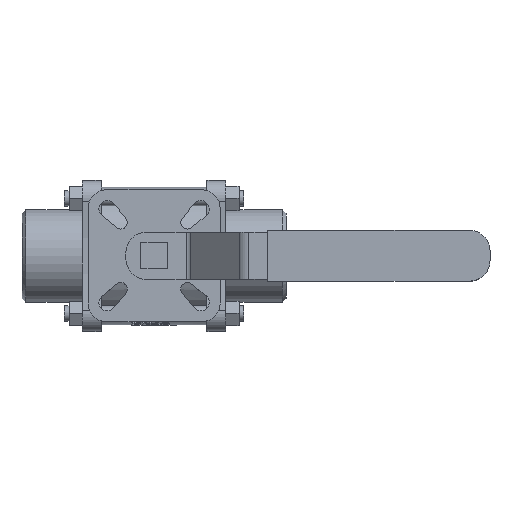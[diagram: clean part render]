
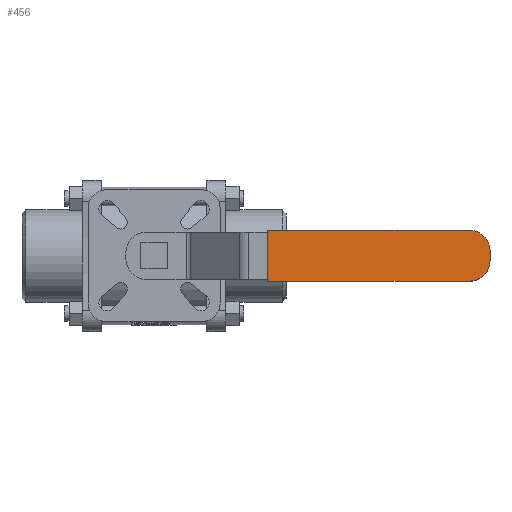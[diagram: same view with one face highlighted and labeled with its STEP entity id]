
A CAD part, top view. The second image highlights one B-rep face of the part: STEP entity #456.
In plain terms, the highlighted planar face has unit normal (0, 0, 1).
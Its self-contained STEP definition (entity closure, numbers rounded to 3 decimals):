
#456 = ADVANCED_FACE( '', ( #1140 ), #1141, .F. );
#1140 = FACE_OUTER_BOUND( '', #2866, .T. );
#1141 = PLANE( '', #2867 );
#2866 = EDGE_LOOP( '', ( #6208, #6209, #6210, #6211, #6212, #6213 ) );
#2867 = AXIS2_PLACEMENT_3D( '', #6214, #6215, #6216 );
#6208 = ORIENTED_EDGE( '', *, *, #8418, .T. );
#6209 = ORIENTED_EDGE( '', *, *, #8383, .T. );
#6210 = ORIENTED_EDGE( '', *, *, #8419, .T. );
#6211 = ORIENTED_EDGE( '', *, *, #8420, .F. );
#6212 = ORIENTED_EDGE( '', *, *, #8421, .F. );
#6213 = ORIENTED_EDGE( '', *, *, #8422, .T. );
#6214 = CARTESIAN_POINT( '', ( 178., -13.5, 34. ) );
#6215 = DIRECTION( '', ( 0., 0., -1. ) );
#6216 = DIRECTION( '', ( -1., 0., 0. ) );
#8383 = EDGE_CURVE( '', #9548, #9546, #9549, .F. );
#8418 = EDGE_CURVE( '', #9605, #9548, #9606, .T. );
#8419 = EDGE_CURVE( '', #9546, #9607, #9608, .T. );
#8420 = EDGE_CURVE( '', #9609, #9607, #9610, .T. );
#8421 = EDGE_CURVE( '', #9611, #9609, #9612, .T. );
#8422 = EDGE_CURVE( '', #9611, #9605, #9613, .F. );
#9546 = VERTEX_POINT( '', #12238 );
#9548 = VERTEX_POINT( '', #12241 );
#9549 = CIRCLE( '', #12242, 11. );
#9605 = VERTEX_POINT( '', #12498 );
#9606 = LINE( '', #12499, #12500 );
#9607 = VERTEX_POINT( '', #12501 );
#9608 = LINE( '', #12502, #12503 );
#9609 = VERTEX_POINT( '', #12504 );
#9610 = LINE( '', #12505, #12506 );
#9611 = VERTEX_POINT( '', #12507 );
#9612 = LINE( '', #12508, #12509 );
#9613 = CIRCLE( '', #12510, 11. );
#12238 = CARTESIAN_POINT( '', ( 167., 13.5, 34. ) );
#12241 = CARTESIAN_POINT( '', ( 178., 2.5, 34. ) );
#12242 = AXIS2_PLACEMENT_3D( '', #15531, #15532, #15533 );
#12498 = CARTESIAN_POINT( '', ( 178., -2.5, 34. ) );
#12499 = CARTESIAN_POINT( '', ( 178., -13.5, 34. ) );
#12500 = VECTOR( '', #15549, 1000. );
#12501 = CARTESIAN_POINT( '', ( 60.142, 13.5, 34. ) );
#12502 = CARTESIAN_POINT( '', ( 178., 13.5, 34. ) );
#12503 = VECTOR( '', #15550, 1000. );
#12504 = CARTESIAN_POINT( '', ( 60.142, -13.5, 34. ) );
#12505 = CARTESIAN_POINT( '', ( 60.142, -13.5, 34. ) );
#12506 = VECTOR( '', #15551, 1000. );
#12507 = CARTESIAN_POINT( '', ( 167., -13.5, 34. ) );
#12508 = CARTESIAN_POINT( '', ( 178., -13.5, 34. ) );
#12509 = VECTOR( '', #15552, 1000. );
#12510 = AXIS2_PLACEMENT_3D( '', #15553, #15554, #15555 );
#15531 = CARTESIAN_POINT( '', ( 167., 2.5, 34. ) );
#15532 = DIRECTION( '', ( 0., 0., -1. ) );
#15533 = DIRECTION( '', ( -1., 0., 0. ) );
#15549 = DIRECTION( '', ( 0., 1., 0. ) );
#15550 = DIRECTION( '', ( -1., 0., 0. ) );
#15551 = DIRECTION( '', ( 0., 1., 0. ) );
#15552 = DIRECTION( '', ( -1., 0., 0. ) );
#15553 = CARTESIAN_POINT( '', ( 167., -2.5, 34. ) );
#15554 = DIRECTION( '', ( 0., 0., -1. ) );
#15555 = DIRECTION( '', ( -1., 0., 0. ) );
